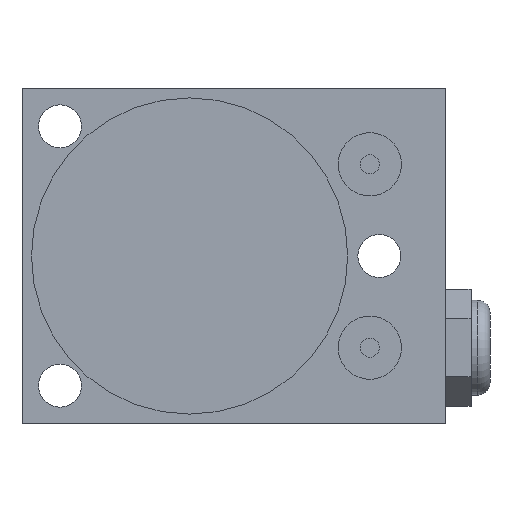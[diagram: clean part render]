
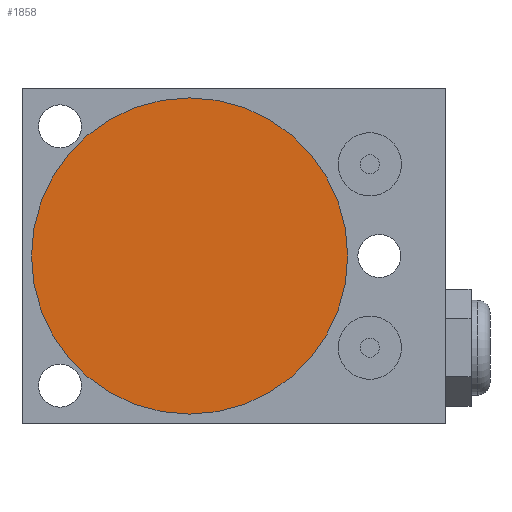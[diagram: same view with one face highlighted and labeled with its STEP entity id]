
A CAD part, front view. The second image highlights one B-rep face of the part: STEP entity #1858.
In plain terms, the highlighted planar face has unit normal (0, -1, 0).
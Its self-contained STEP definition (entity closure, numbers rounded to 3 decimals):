
#212 = PLANE ( 'NONE',  #446 ) ;
#435 = VERTEX_POINT ( 'NONE', #1252 ) ;
#446 = AXIS2_PLACEMENT_3D ( 'NONE', #1627, #805, #1413 ) ;
#575 = CIRCLE ( 'NONE', #2302, 25. ) ;
#805 = DIRECTION ( 'NONE',  ( 0., 1., 0. ) ) ;
#948 = CARTESIAN_POINT ( 'NONE',  ( 0., 0., 0. ) ) ;
#981 = DIRECTION ( 'NONE',  ( 0., 0., 1. ) ) ;
#1181 = FACE_OUTER_BOUND ( 'NONE', #2243, .T. ) ;
#1229 = CARTESIAN_POINT ( 'NONE',  ( 0., 0., -25. ) ) ;
#1252 = CARTESIAN_POINT ( 'NONE',  ( 0., 0., 25. ) ) ;
#1271 = AXIS2_PLACEMENT_3D ( 'NONE', #948, #1360, #2160 ) ;
#1330 = CIRCLE ( 'NONE', #1271, 25. ) ;
#1360 = DIRECTION ( 'NONE',  ( 0., 1., 0. ) ) ;
#1413 = DIRECTION ( 'NONE',  ( 0., 0., 1. ) ) ;
#1426 = VERTEX_POINT ( 'NONE', #1229 ) ;
#1627 = CARTESIAN_POINT ( 'NONE',  ( 0., 0., 0. ) ) ;
#1658 = EDGE_CURVE ( 'NONE', #1426, #435, #1330, .T. ) ;
#1858 = ADVANCED_FACE ( 'NONE', ( #1181 ), #212, .F. ) ;
#2023 = ORIENTED_EDGE ( 'NONE', *, *, #1658, .F. ) ;
#2156 = CARTESIAN_POINT ( 'NONE',  ( 0., 0., 0. ) ) ;
#2160 = DIRECTION ( 'NONE',  ( 0., 0., 1. ) ) ;
#2243 = EDGE_LOOP ( 'NONE', ( #2023, #2269 ) ) ;
#2254 = EDGE_CURVE ( 'NONE', #435, #1426, #575, .T. ) ;
#2269 = ORIENTED_EDGE ( 'NONE', *, *, #2254, .F. ) ;
#2302 = AXIS2_PLACEMENT_3D ( 'NONE', #2156, #2555, #981 ) ;
#2555 = DIRECTION ( 'NONE',  ( 0., 1., 0. ) ) ;
